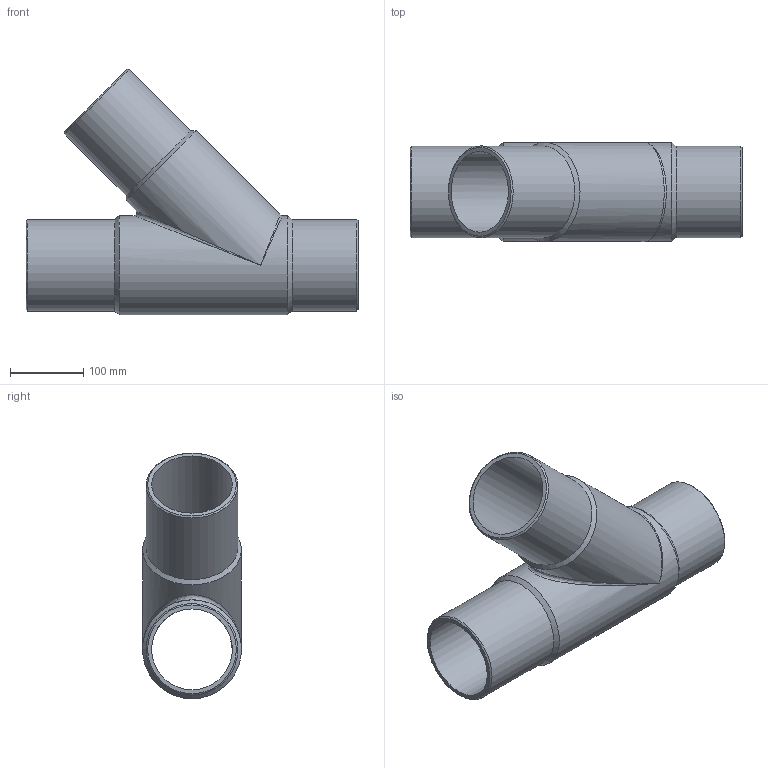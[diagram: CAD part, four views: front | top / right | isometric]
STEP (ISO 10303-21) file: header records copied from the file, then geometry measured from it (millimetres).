
FILE_DESCRIPTION(/* description */ ('Unknown'),/* implementation_level */ '2;1');
FILE_NAME(/* name */ 'T4P125B',/* time_stamp */ '2022-02-23T11:02:13+01:00',/* author */ ('Unknown'),/* organization */ ('Unknown'),/* preprocessor_version */ 'ST-DEVELOPER v18.1',/* originating_system */ 'Solid Edge',/* authorisation */ 'Unknown');
FILE_SCHEMA (('AUTOMOTIVE_DESIGN {1 0 10303 214 3 1 1}'));
Length unit declared in the file: millimetre
Products named in the file (1): T4P125B
Bounding box: 453 x 135 x 335.11 mm (x, y, z)
Volume: 2456868.1 mm3; surface area: 505679.1 mm2
Topology: 1 solids, 1 shells, 18 faces, 47 edges, 26 vertices
Faces by surface type: cylinder 7, cone 6, plane 3, bspline 2
Full cylindrical faces by diameter (mm): 110.2 x2, 125 x3, 135 x2
Entity records: 516 total; most frequent: CARTESIAN_POINT 159, DIRECTION 76, ORIENTED_EDGE 42, AXIS2_PLACEMENT_3D 38, EDGE_LOOP 36, FACE_BOUND 36, EDGE_CURVE 21, VERTEX_POINT 19
